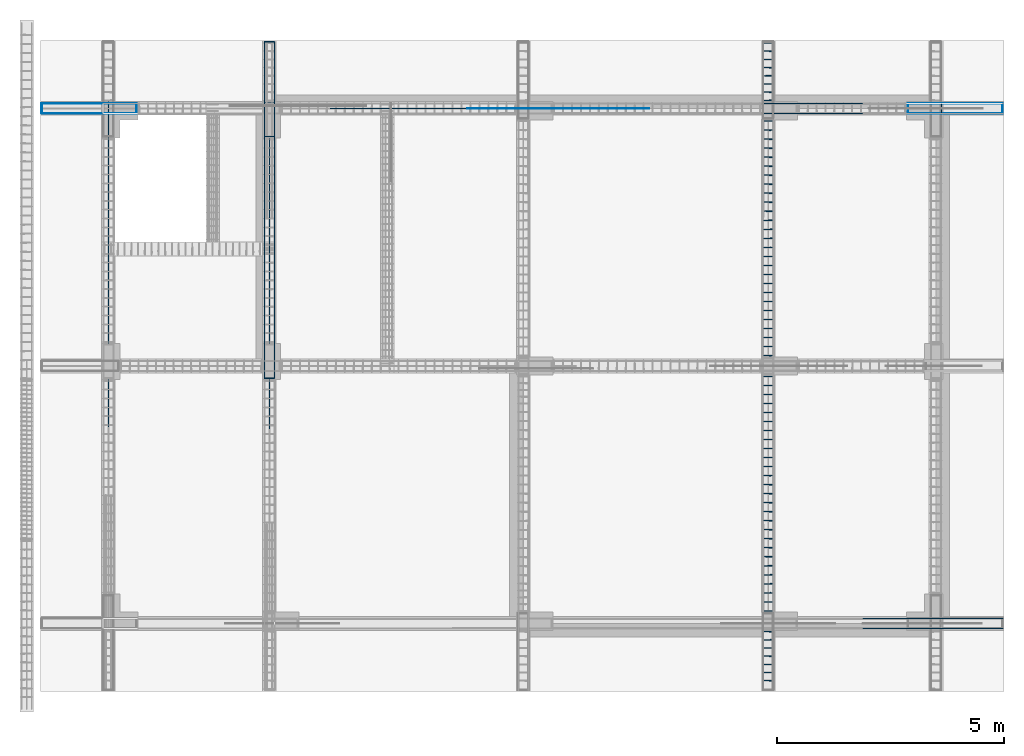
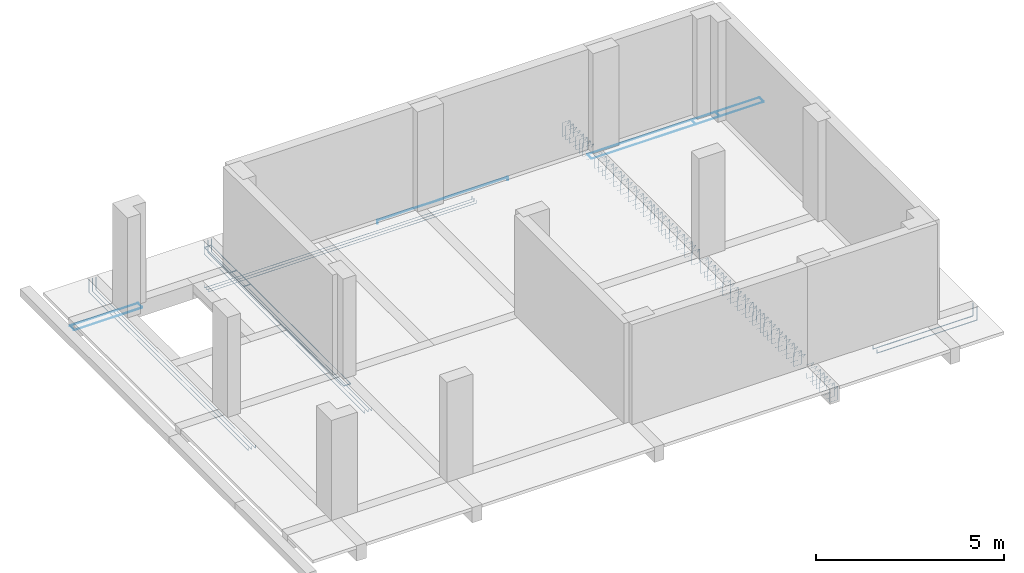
# One storey, part 3 of 3: 10 reinforcing bars.
"""IFC4 building model written with IfcOpenShell, lengths in metres."""

from ifc_helpers import new_model, entity, si_unit, frame, origin_with_axes, place, context, project, spatial, source, transform, mapped, element, save


model = new_model("IFC4")

# Units and contexts
model_context = context("Model", 3, precision=1e-05, world=origin_with_axes())
ifc_project = project(units=[si_unit("LENGTHUNIT", "METRE"), si_unit("AREAUNIT", "SQUARE_METRE"), si_unit("VOLUMEUNIT", "CUBIC_METRE"), si_unit("MASSUNIT", "GRAM", prefix="KILO"), si_unit("TIMEUNIT", "SECOND"), si_unit("PLANEANGLEUNIT", "RADIAN"), si_unit("SOLIDANGLEUNIT", "STERADIAN"), si_unit("THERMODYNAMICTEMPERATUREUNIT", "DEGREE_CELSIUS")], contexts=[model_context])

# Site, building, storey
placement_1 = place(None, origin_with_axes())
site = spatial("IfcSite", under=ifc_project, at=placement_1, Name="Italia", CompositionType="ELEMENT")
building = spatial("IfcBuilding", under=site, at=placement_1, Name="Palazzina", CompositionType="ELEMENT")
storey_placement = place(None, frame((0.0, 0.0, 3.75), z_axis=(0.0, 0.0, 1.0), x_axis=(1.0, 0.0, 0.0)))
storey = spatial("IfcBuildingStorey", under=building, at=storey_placement, Name="Storey 1", CompositionType="ELEMENT", Elevation=3.75)

# Reinforcing bars
shared_shape_1 = source(origin_with_axes(), model_context, "Body", "AdvancedSweptSolid", [
    entity("IfcSweptDiskSolid", entity("IfcIndexedPolyCurve", entity("IfcCartesianPointList3D", [[16.7984, 0.041, 3.39], [16.7984, 0.041, 3.3], [16.7991, 0.041, 3.29617], [16.8013, 0.041, 3.29293], [16.8045, 0.041, 3.29076], [16.8084, 0.041, 3.29], [17.75, 0.041, 3.29], [19.86, 0.041, 3.29], [19.8638, 0.041, 3.29076], [19.8671, 0.041, 3.29293], [19.8692, 0.041, 3.29617], [19.87, 0.041, 3.3], [19.87, 0.041, 3.71]]), [entity("IfcLineIndex", [1, 2]), entity("IfcLineIndex", [2, 3]), entity("IfcLineIndex", [3, 4]), entity("IfcLineIndex", [4, 5]), entity("IfcLineIndex", [5, 6]), entity("IfcLineIndex", [6, 7]), entity("IfcLineIndex", [7, 8]), entity("IfcLineIndex", [8, 9]), entity("IfcLineIndex", [9, 10]), entity("IfcLineIndex", [10, 11]), entity("IfcLineIndex", [11, 12]), entity("IfcLineIndex", [12, 13])], False), 0.008),
])
placement_2 = place(placement_1, origin_with_axes())
reinforcing_bar_1_placement = place(placement_2, origin_with_axes())
element("IfcReinforcingBar", 1, at=reinforcing_bar_1_placement, inside=storey, BarLength=3.58285, CrossSectionArea=0.00020106, NominalDiameter=0.016, context=model_context, shape_type="MappedRepresentation", body=[
    mapped(shared_shape_1, transform((0.0, 0.218, 0.0), x_axis=(1.0, 0.0, 0.0), y_axis=(0.0, 1.0, 0.0), z_axis=(0.0, 0.0, 1.0), scale=1.0)),
    mapped(shared_shape_1, transform((0.0, 0.0, 0.0), x_axis=(1.0, 0.0, 0.0), y_axis=(0.0, 1.0, 0.0), z_axis=(0.0, 0.0, 1.0), scale=1.0)),
])
shared_shape_2 = source(origin_with_axes(), model_context, "Body", "AdvancedSweptSolid", [
    entity("IfcSweptDiskSolid", entity("IfcIndexedPolyCurve", entity("IfcCartesianPointList3D", [[2.796, 11.402, 3.39], [2.796, 11.402, 3.3], [2.79676, 11.402, 3.29617], [2.79892, 11.402, 3.29293], [2.80217, 11.402, 3.29076], [2.806, 11.402, 3.29], [3.87908, 11.402, 3.29], [9.95, 11.402, 3.29], [11.0231, 11.402, 3.29], [11.0269, 11.402, 3.29076], [11.0302, 11.402, 3.29293], [11.0323, 11.402, 3.29617], [11.0331, 11.402, 3.3], [11.0331, 11.402, 3.39]]), [entity("IfcLineIndex", [1, 2]), entity("IfcLineIndex", [2, 3]), entity("IfcLineIndex", [3, 4]), entity("IfcLineIndex", [4, 5]), entity("IfcLineIndex", [5, 6]), entity("IfcLineIndex", [6, 7]), entity("IfcLineIndex", [7, 8]), entity("IfcLineIndex", [8, 9]), entity("IfcLineIndex", [9, 10]), entity("IfcLineIndex", [10, 11]), entity("IfcLineIndex", [11, 12]), entity("IfcLineIndex", [12, 13]), entity("IfcLineIndex", [13, 14])], False), 0.009),
])
reinforcing_bar_2_placement = place(placement_2, origin_with_axes())
element("IfcReinforcingBar", 2, at=reinforcing_bar_2_placement, inside=storey, BarLength=8.42831, CrossSectionArea=0.00025447, NominalDiameter=0.018, context=model_context, shape_type="MappedRepresentation", body=[
    mapped(shared_shape_2, transform((0.0, 0.108, 0.0), x_axis=(1.0, 0.0, 0.0), y_axis=(0.0, 1.0, 0.0), z_axis=(0.0, 0.0, 1.0), scale=1.0)),
    mapped(shared_shape_2, transform((0.0, 0.216001, 0.0), x_axis=(1.0, 0.0, 0.0), y_axis=(0.0, 1.0, 0.0), z_axis=(0.0, 0.0, 1.0), scale=1.0)),
    mapped(shared_shape_2, transform((0.0, 0.0, 0.0), x_axis=(1.0, 0.0, 0.0), y_axis=(0.0, 1.0, 0.0), z_axis=(0.0, 0.0, 1.0), scale=1.0)),
])
shared_shape_3 = source(origin_with_axes(), model_context, "Body", "AdvancedSweptSolid", [
    entity("IfcSweptDiskSolid", entity("IfcIndexedPolyCurve", entity("IfcCartesianPointList3D", [[17.78, 11.401, 3.506], [17.78, 11.611, 3.506], [17.7808, 11.6148, 3.506], [17.7829, 11.6181, 3.506], [17.7862, 11.6202, 3.506], [17.79, 11.621, 3.506], [19.86, 11.621, 3.506], [19.8638, 11.6202, 3.506], [19.8671, 11.6181, 3.506], [19.8692, 11.6148, 3.506], [19.87, 11.611, 3.506], [19.87, 11.401, 3.506]]), [entity("IfcLineIndex", [1, 2]), entity("IfcLineIndex", [2, 3]), entity("IfcLineIndex", [3, 4]), entity("IfcLineIndex", [4, 5]), entity("IfcLineIndex", [5, 6]), entity("IfcLineIndex", [6, 7]), entity("IfcLineIndex", [7, 8]), entity("IfcLineIndex", [8, 9]), entity("IfcLineIndex", [9, 10]), entity("IfcLineIndex", [10, 11]), entity("IfcLineIndex", [11, 12])], False), 0.006),
])
reinforcing_bar_3_placement = place(placement_2, origin_with_axes())
element("IfcReinforcingBar", 3, at=reinforcing_bar_3_placement, inside=storey, BarLength=2.52121, CrossSectionArea=0.0001131, NominalDiameter=0.012, context=model_context, shape_type="MappedRepresentation", body=[
    mapped(shared_shape_3, transform((0.0, 0.0, 0.0), x_axis=(1.0, 0.0, 0.0), y_axis=(0.0, 1.0, 0.0), z_axis=(0.0, 0.0, 1.0), scale=1.0)),
    mapped(shared_shape_3, transform((-19.1, 23.02, 7.0), x_axis=(1.0, 0.0, 0.0), y_axis=(0.0, -1.0, 0.0), z_axis=(0.0, 0.0, -1.0), scale=1.0)),
    mapped(shared_shape_3, transform((-19.1, 0.0, 0.0), x_axis=(1.0, 0.0, 0.0), y_axis=(0.0, 1.0, 0.0), z_axis=(0.0, 0.0, 1.0), scale=1.0)),
    mapped(shared_shape_3, transform((0.0, 23.02, 7.0), x_axis=(1.0, 0.0, 0.0), y_axis=(0.0, -1.0, 0.0), z_axis=(0.0, 0.0, -1.0), scale=1.0)),
])
shared_shape_4 = source(origin_with_axes(), model_context, "Body", "AdvancedSweptSolid", [
    entity("IfcSweptDiskSolid", entity("IfcIndexedPolyCurve", entity("IfcCartesianPointList3D", [[14.58, 11.401, 3.506], [14.58, 11.611, 3.506], [14.5808, 11.6148, 3.506], [14.5829, 11.6181, 3.506], [14.5862, 11.6202, 3.506], [14.59, 11.621, 3.506], [18.51, 11.621, 3.506], [18.5138, 11.6202, 3.506], [18.5171, 11.6181, 3.506], [18.5192, 11.6148, 3.506], [18.52, 11.611, 3.506], [18.52, 11.401, 3.506]]), [entity("IfcLineIndex", [1, 2]), entity("IfcLineIndex", [2, 3]), entity("IfcLineIndex", [3, 4]), entity("IfcLineIndex", [4, 5]), entity("IfcLineIndex", [5, 6]), entity("IfcLineIndex", [6, 7]), entity("IfcLineIndex", [7, 8]), entity("IfcLineIndex", [8, 9]), entity("IfcLineIndex", [9, 10]), entity("IfcLineIndex", [10, 11]), entity("IfcLineIndex", [11, 12])], False), 0.006),
])
reinforcing_bar_4_placement = place(placement_2, origin_with_axes())
element("IfcReinforcingBar", 4, at=reinforcing_bar_4_placement, inside=storey, BarLength=4.37121, CrossSectionArea=0.0001131, NominalDiameter=0.012, context=model_context, shape_type="MappedRepresentation", body=[
    mapped(shared_shape_4, transform((0.0, 23.02, 7.0), x_axis=(1.0, 0.0, 0.0), y_axis=(0.0, -1.0, 0.0), z_axis=(0.0, 0.0, -1.0), scale=1.0)),
    mapped(shared_shape_4, transform((0.0, 0.0, 0.0), x_axis=(1.0, 0.0, 0.0), y_axis=(0.0, 1.0, 0.0), z_axis=(0.0, 0.0, 1.0), scale=1.0)),
])
shared_shape_5 = source(origin_with_axes(), model_context, "Body", "AdvancedSweptSolid", [
    entity("IfcSweptDiskSolid", entity("IfcIndexedPolyCurve", entity("IfcCartesianPointList3D", [[8.06691, 11.51, 3.61], [8.06691, 11.51, 3.7], [8.06767, 11.51, 3.70383], [8.06984, 11.51, 3.70707], [8.07308, 11.51, 3.70924], [8.07691, 11.51, 3.71], [9.15, 11.51, 3.71], [10.9838, 11.51, 3.71], [12.0569, 11.51, 3.71], [12.0607, 11.51, 3.70924], [12.064, 11.51, 3.70707], [12.0661, 11.51, 3.70383], [12.0669, 11.51, 3.7], [12.0669, 11.51, 3.61]]), [entity("IfcLineIndex", [1, 2]), entity("IfcLineIndex", [2, 3]), entity("IfcLineIndex", [3, 4]), entity("IfcLineIndex", [4, 5]), entity("IfcLineIndex", [5, 6]), entity("IfcLineIndex", [6, 7]), entity("IfcLineIndex", [7, 8]), entity("IfcLineIndex", [8, 9]), entity("IfcLineIndex", [9, 10]), entity("IfcLineIndex", [10, 11]), entity("IfcLineIndex", [11, 12]), entity("IfcLineIndex", [12, 13]), entity("IfcLineIndex", [13, 14])], False), 0.009),
])
reinforcing_bar_5_placement = place(placement_2, origin_with_axes())
element("IfcReinforcingBar", 5, at=reinforcing_bar_5_placement, inside=storey, BarLength=4.19122, CrossSectionArea=0.00025447, NominalDiameter=0.018, context=model_context, shape_type="MappedRepresentation", body=[
    mapped(shared_shape_5, transform((0.0, 0.0, 0.0), x_axis=(1.0, 0.0, 0.0), y_axis=(0.0, 1.0, 0.0), z_axis=(0.0, 0.0, 1.0), scale=1.0)),
])
shared_shape_6 = source(origin_with_axes(), model_context, "Body", "AdvancedSweptSolid", [
    entity("IfcSweptDiskSolid", entity("IfcIndexedPolyCurve", entity("IfcCartesianPointList3D", [[0.258, 4.48925, 3.39], [0.258, 4.48925, 3.3], [0.258, 4.49001, 3.29617], [0.258, 4.49217, 3.29293], [0.258, 4.49542, 3.29076], [0.258, 4.49925, 3.29], [0.258, 5.57233, 3.29], [0.258, 12.97, 3.29], [0.258, 12.9738, 3.29076], [0.258, 12.9771, 3.29293], [0.258, 12.9792, 3.29617], [0.258, 12.98, 3.3], [0.258, 12.98, 3.71]]), [entity("IfcLineIndex", [1, 2]), entity("IfcLineIndex", [2, 3]), entity("IfcLineIndex", [3, 4]), entity("IfcLineIndex", [4, 5]), entity("IfcLineIndex", [5, 6]), entity("IfcLineIndex", [6, 7]), entity("IfcLineIndex", [7, 8]), entity("IfcLineIndex", [8, 9]), entity("IfcLineIndex", [9, 10]), entity("IfcLineIndex", [10, 11]), entity("IfcLineIndex", [11, 12]), entity("IfcLineIndex", [12, 13])], False), 0.009),
])
reinforcing_bar_6_placement = place(placement_2, origin_with_axes())
element("IfcReinforcingBar", 6, at=reinforcing_bar_6_placement, inside=storey, BarLength=9.00197, CrossSectionArea=0.00025447, NominalDiameter=0.018, context=model_context, shape_type="MappedRepresentation", body=[
    mapped(shared_shape_6, transform((-0.108, 0.0, 0.0), x_axis=(1.0, 0.0, 0.0), y_axis=(0.0, 1.0, 0.0), z_axis=(0.0, 0.0, 1.0), scale=1.0)),
    mapped(shared_shape_6, transform((-0.216, 0.0, 0.0), x_axis=(1.0, 0.0, 0.0), y_axis=(0.0, 1.0, 0.0), z_axis=(0.0, 0.0, 1.0), scale=1.0)),
    mapped(shared_shape_6, transform((0.0, 0.0, 0.0), x_axis=(1.0, 0.0, 0.0), y_axis=(0.0, 1.0, 0.0), z_axis=(0.0, 0.0, 1.0), scale=1.0)),
])
shared_shape_7 = source(origin_with_axes(), model_context, "Body", "AdvancedSweptSolid", [
    entity("IfcSweptDiskSolid", entity("IfcIndexedPolyCurve", entity("IfcCartesianPointList3D", [[3.808, 4.44691, 3.39], [3.808, 4.44691, 3.3], [3.808, 4.44767, 3.29617], [3.808, 4.44984, 3.29293], [3.808, 4.45309, 3.29076], [3.808, 4.45691, 3.29], [3.808, 5.53, 3.29], [3.808, 12.97, 3.29], [3.808, 12.9738, 3.29076], [3.808, 12.9771, 3.29293], [3.808, 12.9792, 3.29617], [3.808, 12.98, 3.3], [3.808, 12.98, 3.71]]), [entity("IfcLineIndex", [1, 2]), entity("IfcLineIndex", [2, 3]), entity("IfcLineIndex", [3, 4]), entity("IfcLineIndex", [4, 5]), entity("IfcLineIndex", [5, 6]), entity("IfcLineIndex", [6, 7]), entity("IfcLineIndex", [7, 8]), entity("IfcLineIndex", [8, 9]), entity("IfcLineIndex", [9, 10]), entity("IfcLineIndex", [10, 11]), entity("IfcLineIndex", [11, 12]), entity("IfcLineIndex", [12, 13])], False), 0.009),
])
reinforcing_bar_7_placement = place(placement_2, origin_with_axes())
element("IfcReinforcingBar", 7, at=reinforcing_bar_7_placement, inside=storey, BarLength=9.0443, CrossSectionArea=0.00025447, NominalDiameter=0.018, context=model_context, shape_type="MappedRepresentation", body=[
    mapped(shared_shape_7, transform((-0.108, 0.0, 0.0), x_axis=(1.0, 0.0, 0.0), y_axis=(0.0, 1.0, 0.0), z_axis=(0.0, 0.0, 1.0), scale=1.0)),
    mapped(shared_shape_7, transform((-0.216, 0.0, 0.0), x_axis=(1.0, 0.0, 0.0), y_axis=(0.0, 1.0, 0.0), z_axis=(0.0, 0.0, 1.0), scale=1.0)),
    mapped(shared_shape_7, transform((0.0, 0.0, 0.0), x_axis=(1.0, 0.0, 0.0), y_axis=(0.0, 1.0, 0.0), z_axis=(0.0, 0.0, 1.0), scale=1.0)),
])
shared_shape_8 = source(origin_with_axes(), model_context, "Body", "AdvancedSweptSolid", [
    entity("IfcSweptDiskSolid", entity("IfcIndexedPolyCurve", entity("IfcCartesianPointList3D", [[3.809, 10.89, 3.506], [3.599, 10.89, 3.506], [3.59517, 10.8908, 3.506], [3.59193, 10.8929, 3.506], [3.58976, 10.8962, 3.506], [3.589, 10.9, 3.506], [3.589, 12.97, 3.506], [3.58976, 12.9738, 3.506], [3.59193, 12.9771, 3.506], [3.59517, 12.9792, 3.506], [3.599, 12.98, 3.506], [3.809, 12.98, 3.506]]), [entity("IfcLineIndex", [1, 2]), entity("IfcLineIndex", [2, 3]), entity("IfcLineIndex", [3, 4]), entity("IfcLineIndex", [4, 5]), entity("IfcLineIndex", [5, 6]), entity("IfcLineIndex", [6, 7]), entity("IfcLineIndex", [7, 8]), entity("IfcLineIndex", [8, 9]), entity("IfcLineIndex", [9, 10]), entity("IfcLineIndex", [10, 11]), entity("IfcLineIndex", [11, 12])], False), 0.006),
])
reinforcing_bar_8_placement = place(placement_2, origin_with_axes())
element("IfcReinforcingBar", 8, at=reinforcing_bar_8_placement, inside=storey, BarLength=2.52122, CrossSectionArea=0.0001131, NominalDiameter=0.012, context=model_context, shape_type="MappedRepresentation", body=[
    mapped(shared_shape_8, transform((7.4, 0.0, 7.0), x_axis=(-1.0, 0.0, 0.0), y_axis=(0.0, 1.0, 0.0), z_axis=(0.0, 0.0, -1.0), scale=1.0)),
    mapped(shared_shape_8, transform((0.0, 0.0, 0.0), x_axis=(1.0, 0.0, 0.0), y_axis=(0.0, 1.0, 0.0), z_axis=(0.0, 0.0, 1.0), scale=1.0)),
])
shared_shape_9 = source(origin_with_axes(), model_context, "Body", "AdvancedSweptSolid", [
    entity("IfcSweptDiskSolid", entity("IfcIndexedPolyCurve", entity("IfcCartesianPointList3D", [[3.809, 5.56, 3.506], [3.599, 5.56, 3.506], [3.59517, 5.56076, 3.506], [3.59193, 5.56293, 3.506], [3.58976, 5.56617, 3.506], [3.589, 5.57, 3.506], [3.589, 11.62, 3.506], [3.58976, 11.6238, 3.506], [3.59193, 11.6271, 3.506], [3.59517, 11.6292, 3.506], [3.599, 11.63, 3.506], [3.809, 11.63, 3.506]]), [entity("IfcLineIndex", [1, 2]), entity("IfcLineIndex", [2, 3]), entity("IfcLineIndex", [3, 4]), entity("IfcLineIndex", [4, 5]), entity("IfcLineIndex", [5, 6]), entity("IfcLineIndex", [6, 7]), entity("IfcLineIndex", [7, 8]), entity("IfcLineIndex", [8, 9]), entity("IfcLineIndex", [9, 10]), entity("IfcLineIndex", [10, 11]), entity("IfcLineIndex", [11, 12])], False), 0.006),
])
reinforcing_bar_9_placement = place(placement_2, origin_with_axes())
element("IfcReinforcingBar", 9, at=reinforcing_bar_9_placement, inside=storey, BarLength=6.50121, CrossSectionArea=0.0001131, NominalDiameter=0.012, context=model_context, shape_type="MappedRepresentation", body=[
    mapped(shared_shape_9, transform((7.4, 0.0, 7.0), x_axis=(-1.0, 0.0, 0.0), y_axis=(0.0, 1.0, 0.0), z_axis=(0.0, 0.0, -1.0), scale=1.0)),
    mapped(shared_shape_9, transform((0.0, 0.0, 0.0), x_axis=(1.0, 0.0, 0.0), y_axis=(0.0, 1.0, 0.0), z_axis=(0.0, 0.0, 1.0), scale=1.0)),
])
shared_shape_10 = source(origin_with_axes(), model_context, "Body", "AdvancedSweptSolid", [
    entity("IfcSweptDiskSolid", entity("IfcIndexedPolyCurve", entity("IfcCartesianPointList3D", [[14.7503, -1.287, 3.62929], [14.8181, -1.28756, 3.69707], [14.821, -1.2876, 3.70414], [14.821, -1.28764, 3.711], [14.8202, -1.28766, 3.71483], [14.8181, -1.28769, 3.71807], [14.8148, -1.28771, 3.72024], [14.811, -1.28773, 3.721], [14.589, -1.28902, 3.721], [14.5852, -1.28904, 3.72024], [14.5819, -1.28906, 3.71807], [14.5798, -1.28909, 3.71483], [14.579, -1.28911, 3.711], [14.579, -1.29155, 3.289], [14.5798, -1.29158, 3.28517], [14.5819, -1.2916, 3.28193], [14.5852, -1.29162, 3.27976], [14.589, -1.29165, 3.279], [14.811, -1.29293, 3.279], [14.8148, -1.29296, 3.27976], [14.8181, -1.29298, 3.28193], [14.8202, -1.293, 3.28517], [14.821, -1.29302, 3.289], [14.821, -1.29547, 3.711], [14.8202, -1.29549, 3.71483], [14.8181, -1.29552, 3.71807], [14.8148, -1.29554, 3.72024], [14.811, -1.29556, 3.721], [14.8041, -1.2956, 3.721], [14.7971, -1.29564, 3.71807], [14.7293, -1.2962, 3.65029]]), [entity("IfcLineIndex", [1, 2]), entity("IfcLineIndex", [2, 3]), entity("IfcLineIndex", [3, 4]), entity("IfcLineIndex", [4, 5]), entity("IfcLineIndex", [5, 6]), entity("IfcLineIndex", [6, 7]), entity("IfcLineIndex", [7, 8]), entity("IfcLineIndex", [8, 9]), entity("IfcLineIndex", [9, 10]), entity("IfcLineIndex", [10, 11]), entity("IfcLineIndex", [11, 12]), entity("IfcLineIndex", [12, 13]), entity("IfcLineIndex", [13, 14]), entity("IfcLineIndex", [14, 15]), entity("IfcLineIndex", [15, 16]), entity("IfcLineIndex", [16, 17]), entity("IfcLineIndex", [17, 18]), entity("IfcLineIndex", [18, 19]), entity("IfcLineIndex", [19, 20]), entity("IfcLineIndex", [20, 21]), entity("IfcLineIndex", [21, 22]), entity("IfcLineIndex", [22, 23]), entity("IfcLineIndex", [23, 24]), entity("IfcLineIndex", [24, 25]), entity("IfcLineIndex", [25, 26]), entity("IfcLineIndex", [26, 27]), entity("IfcLineIndex", [27, 28]), entity("IfcLineIndex", [28, 29]), entity("IfcLineIndex", [29, 30]), entity("IfcLineIndex", [30, 31])], False), 0.004),
])
reinforcing_bar_10_placement = place(placement_2, origin_with_axes())
element("IfcReinforcingBar", 10, at=reinforcing_bar_10_placement, inside=storey, BarLength=1.58681, CrossSectionArea=5.0265e-05, NominalDiameter=0.008, context=model_context, shape_type="MappedRepresentation", body=[
    mapped(shared_shape_10, transform((0.0, 4.306, 0.0), x_axis=(1.0, 0.0, 0.0), y_axis=(0.0, 1.0, 0.0), z_axis=(0.0, 0.0, 1.0), scale=1.0)),
    mapped(shared_shape_10, transform((0.0, 4.10708, 0.0), x_axis=(1.0, 0.0, 0.0), y_axis=(0.0, 1.0, 0.0), z_axis=(0.0, 0.0, 1.0), scale=1.0)),
    mapped(shared_shape_10, transform((0.0, 3.90815, 0.0), x_axis=(1.0, 0.0, 0.0), y_axis=(0.0, 1.0, 0.0), z_axis=(0.0, 0.0, 1.0), scale=1.0)),
    mapped(shared_shape_10, transform((0.0, 3.70923, 0.0), x_axis=(1.0, 0.0, 0.0), y_axis=(0.0, 1.0, 0.0), z_axis=(0.0, 0.0, 1.0), scale=1.0)),
    mapped(shared_shape_10, transform((0.0, 6.89208, 0.0), x_axis=(1.0, 0.0, 0.0), y_axis=(0.0, 1.0, 0.0), z_axis=(0.0, 0.0, 1.0), scale=1.0)),
    mapped(shared_shape_10, transform((0.0, 6.69316, 0.0), x_axis=(1.0, 0.0, 0.0), y_axis=(0.0, 1.0, 0.0), z_axis=(0.0, 0.0, 1.0), scale=1.0)),
    mapped(shared_shape_10, transform((0.0, 4.70385, 0.0), x_axis=(1.0, 0.0, 0.0), y_axis=(0.0, 1.0, 0.0), z_axis=(0.0, 0.0, 1.0), scale=1.0)),
    mapped(shared_shape_10, transform((0.0, 4.50492, 0.0), x_axis=(1.0, 0.0, 0.0), y_axis=(0.0, 1.0, 0.0), z_axis=(0.0, 0.0, 1.0), scale=1.0)),
    mapped(shared_shape_10, transform((0.0, 5.89746, 0.0), x_axis=(1.0, 0.0, 0.0), y_axis=(0.0, 1.0, 0.0), z_axis=(0.0, 0.0, 1.0), scale=1.0)),
    mapped(shared_shape_10, transform((0.0, 5.69854, 0.0), x_axis=(1.0, 0.0, 0.0), y_axis=(0.0, 1.0, 0.0), z_axis=(0.0, 0.0, 1.0), scale=1.0)),
    mapped(shared_shape_10, transform((0.0, 5.49962, 0.0), x_axis=(1.0, 0.0, 0.0), y_axis=(0.0, 1.0, 0.0), z_axis=(0.0, 0.0, 1.0), scale=1.0)),
    mapped(shared_shape_10, transform((0.0, 5.3007, 0.0), x_axis=(1.0, 0.0, 0.0), y_axis=(0.0, 1.0, 0.0), z_axis=(0.0, 0.0, 1.0), scale=1.0)),
    mapped(shared_shape_10, transform((0.0, 5.10169, 0.0), x_axis=(1.0, 0.0, 0.0), y_axis=(0.0, 1.0, 0.0), z_axis=(0.0, 0.0, 1.0), scale=1.0)),
    mapped(shared_shape_10, transform((0.0, 4.90277, 0.0), x_axis=(1.0, 0.0, 0.0), y_axis=(0.0, 1.0, 0.0), z_axis=(0.0, 0.0, 1.0), scale=1.0)),
    mapped(shared_shape_10, transform((0.0, 6.29531, 0.0), x_axis=(1.0, 0.0, 0.0), y_axis=(0.0, 1.0, 0.0), z_axis=(0.0, 0.0, 1.0), scale=1.0)),
    mapped(shared_shape_10, transform((0.0, 6.09639, 0.0), x_axis=(1.0, 0.0, 0.0), y_axis=(0.0, 1.0, 0.0), z_axis=(0.0, 0.0, 1.0), scale=1.0)),
    mapped(shared_shape_10, transform((0.0, 0.540877, 0.0), x_axis=(1.0, 0.0, 0.0), y_axis=(0.0, 1.0, 0.0), z_axis=(0.0, 0.0, 1.0), scale=1.0)),
    mapped(shared_shape_10, transform((0.0, 0.360591, 0.0), x_axis=(1.0, 0.0, 0.0), y_axis=(0.0, 1.0, 0.0), z_axis=(0.0, 0.0, 1.0), scale=1.0)),
    mapped(shared_shape_10, transform((0.0, 0.180286, 0.0), x_axis=(1.0, 0.0, 0.0), y_axis=(0.0, 1.0, 0.0), z_axis=(0.0, 0.0, 1.0), scale=1.0)),
    mapped(shared_shape_10, transform((0.0, 3.51031, 0.0), x_axis=(1.0, 0.0, 0.0), y_axis=(0.0, 1.0, 0.0), z_axis=(0.0, 0.0, 1.0), scale=1.0)),
    mapped(shared_shape_10, transform((0.0, 3.31138, 0.0), x_axis=(1.0, 0.0, 0.0), y_axis=(0.0, 1.0, 0.0), z_axis=(0.0, 0.0, 1.0), scale=1.0)),
    mapped(shared_shape_10, transform((0.0, 6.49423, 0.0), x_axis=(1.0, 0.0, 0.0), y_axis=(0.0, 1.0, 0.0), z_axis=(0.0, 0.0, 1.0), scale=1.0)),
    mapped(shared_shape_10, transform((0.0, 0.901448, 0.0), x_axis=(1.0, 0.0, 0.0), y_axis=(0.0, 1.0, 0.0), z_axis=(0.0, 0.0, 1.0), scale=1.0)),
    mapped(shared_shape_10, transform((0.0, 0.721163, 0.0), x_axis=(1.0, 0.0, 0.0), y_axis=(0.0, 1.0, 0.0), z_axis=(0.0, 0.0, 1.0), scale=1.0)),
    mapped(shared_shape_10, transform((0.0, 2.31677, 0.0), x_axis=(1.0, 0.0, 0.0), y_axis=(0.0, 1.0, 0.0), z_axis=(0.0, 0.0, 1.0), scale=1.0)),
    mapped(shared_shape_10, transform((0.0, 2.11787, 0.0), x_axis=(1.0, 0.0, 0.0), y_axis=(0.0, 1.0, 0.0), z_axis=(0.0, 0.0, 1.0), scale=1.0)),
    mapped(shared_shape_10, transform((0.0, 1.91894, 0.0), x_axis=(1.0, 0.0, 0.0), y_axis=(0.0, 1.0, 0.0), z_axis=(0.0, 0.0, 1.0), scale=1.0)),
    mapped(shared_shape_10, transform((0.0, 1.71994, 0.0), x_axis=(1.0, 0.0, 0.0), y_axis=(0.0, 1.0, 0.0), z_axis=(0.0, 0.0, 1.0), scale=1.0)),
    mapped(shared_shape_10, transform((0.0, 1.262, 0.0), x_axis=(1.0, 0.0, 0.0), y_axis=(0.0, 1.0, 0.0), z_axis=(0.0, 0.0, 1.0), scale=1.0)),
    mapped(shared_shape_10, transform((0.0, 1.08171, 0.0), x_axis=(1.0, 0.0, 0.0), y_axis=(0.0, 1.0, 0.0), z_axis=(0.0, 0.0, 1.0), scale=1.0)),
    mapped(shared_shape_10, transform((0.0, 2.71462, 0.0), x_axis=(1.0, 0.0, 0.0), y_axis=(0.0, 1.0, 0.0), z_axis=(0.0, 0.0, 1.0), scale=1.0)),
    mapped(shared_shape_10, transform((0.0, 2.51569, 0.0), x_axis=(1.0, 0.0, 0.0), y_axis=(0.0, 1.0, 0.0), z_axis=(0.0, 0.0, 1.0), scale=1.0)),
    mapped(shared_shape_10, transform((-0.000167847, 11.3269, 0.000140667), x_axis=(1.0, 0.000133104, 0.0), y_axis=(-0.000133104, 1.0, 0.000122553), z_axis=(0.0, -0.000122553, 1.0), scale=1.0)),
    mapped(shared_shape_10, transform((-0.000167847, 11.128, 0.000140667), x_axis=(1.0, 0.000133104, 0.0), y_axis=(-0.000133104, 1.0, 0.000122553), z_axis=(0.0, -0.000122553, 1.0), scale=1.0)),
    mapped(shared_shape_10, transform((0.0, 0.0, 0.0), x_axis=(1.0, 0.0, 0.0), y_axis=(0.0, 1.0, 0.0), z_axis=(0.0, 0.0, 1.0), scale=1.0)),
    mapped(shared_shape_10, transform((-0.000167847, 14.2405, 0.000140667), x_axis=(1.0, 0.000133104, 0.0), y_axis=(-0.000133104, 1.0, 0.000122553), z_axis=(0.0, -0.000122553, 1.0), scale=1.0)),
    mapped(shared_shape_10, transform((0.0, 3.11246, 0.0), x_axis=(1.0, 0.0, 0.0), y_axis=(0.0, 1.0, 0.0), z_axis=(0.0, 0.0, 1.0), scale=1.0)),
    mapped(shared_shape_10, transform((0.0, 2.91354, 0.0), x_axis=(1.0, 0.0, 0.0), y_axis=(0.0, 1.0, 0.0), z_axis=(0.0, 0.0, 1.0), scale=1.0)),
    mapped(shared_shape_10, transform((-0.000167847, 11.7248, 0.000140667), x_axis=(1.0, 0.000133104, 0.0), y_axis=(-0.000133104, 1.0, 0.000122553), z_axis=(0.0, -0.000122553, 1.0), scale=1.0)),
    mapped(shared_shape_10, transform((-0.000167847, 11.5259, 0.000140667), x_axis=(1.0, 0.000133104, 0.0), y_axis=(-0.000133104, 1.0, 0.000122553), z_axis=(0.0, -0.000122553, 1.0), scale=1.0)),
    mapped(shared_shape_10, transform((-0.000167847, 13.1588, 0.000140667), x_axis=(1.0, 0.000133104, 0.0), y_axis=(-0.000133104, 1.0, 0.000122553), z_axis=(0.0, -0.000122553, 1.0), scale=1.0)),
    mapped(shared_shape_10, transform((-0.000167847, 12.9785, 0.000140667), x_axis=(1.0, 0.000133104, 0.0), y_axis=(-0.000133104, 1.0, 0.000122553), z_axis=(0.0, -0.000122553, 1.0), scale=1.0)),
    mapped(shared_shape_10, transform((-0.000167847, 12.5205, 0.000140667), x_axis=(1.0, 0.000133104, 0.0), y_axis=(-0.000133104, 1.0, 0.000122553), z_axis=(0.0, -0.000122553, 1.0), scale=1.0)),
    mapped(shared_shape_10, transform((-0.000167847, 12.3216, 0.000140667), x_axis=(1.0, 0.000133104, 0.0), y_axis=(-0.000133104, 1.0, 0.000122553), z_axis=(0.0, -0.000122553, 1.0), scale=1.0)),
    mapped(shared_shape_10, transform((-0.000167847, 12.1226, 0.000140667), x_axis=(1.0, 0.000133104, 0.0), y_axis=(-0.000133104, 1.0, 0.000122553), z_axis=(0.0, -0.000122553, 1.0), scale=1.0)),
    mapped(shared_shape_10, transform((-0.000167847, 11.9237, 0.000140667), x_axis=(1.0, 0.000133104, 0.0), y_axis=(-0.000133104, 1.0, 0.000122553), z_axis=(0.0, -0.000122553, 1.0), scale=1.0)),
    mapped(shared_shape_10, transform((-0.000167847, 13.5193, 0.000140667), x_axis=(1.0, 0.000133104, 0.0), y_axis=(-0.000133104, 1.0, 0.000122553), z_axis=(0.0, -0.000122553, 1.0), scale=1.0)),
    mapped(shared_shape_10, transform((-0.000167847, 13.3391, 0.000140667), x_axis=(1.0, 0.000133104, 0.0), y_axis=(-0.000133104, 1.0, 0.000122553), z_axis=(0.0, -0.000122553, 1.0), scale=1.0)),
    mapped(shared_shape_10, transform((0.0, 7.74793, 0.0), x_axis=(1.0, 0.0, 0.0), y_axis=(0.0, 1.0, 0.0), z_axis=(0.0, 0.0, 1.0), scale=1.0)),
    mapped(shared_shape_10, transform((-0.000167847, 10.9291, 0.000140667), x_axis=(1.0, 0.000133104, 0.0), y_axis=(-0.000133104, 1.0, 0.000122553), z_axis=(0.0, -0.000122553, 1.0), scale=1.0)),
    mapped(shared_shape_10, transform((-0.000167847, 10.7302, 0.000140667), x_axis=(1.0, 0.000133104, 0.0), y_axis=(-0.000133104, 1.0, 0.000122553), z_axis=(0.0, -0.000122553, 1.0), scale=1.0)),
    mapped(shared_shape_10, transform((-0.000167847, 14.0602, 0.000140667), x_axis=(1.0, 0.000133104, 0.0), y_axis=(-0.000133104, 1.0, 0.000122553), z_axis=(0.0, -0.000122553, 1.0), scale=1.0)),
    mapped(shared_shape_10, transform((-0.000167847, 13.8799, 0.000140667), x_axis=(1.0, 0.000133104, 0.0), y_axis=(-0.000133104, 1.0, 0.000122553), z_axis=(0.0, -0.000122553, 1.0), scale=1.0)),
    mapped(shared_shape_10, transform((-0.000167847, 13.6996, 0.000140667), x_axis=(1.0, 0.000133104, 0.0), y_axis=(-0.000133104, 1.0, 0.000122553), z_axis=(0.0, -0.000122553, 1.0), scale=1.0)),
    mapped(shared_shape_10, transform((0.0, 8.14577, 0.0), x_axis=(1.0, 0.0, 0.0), y_axis=(0.0, 1.0, 0.0), z_axis=(0.0, 0.0, 1.0), scale=1.0)),
    mapped(shared_shape_10, transform((0.0, 7.94685, 0.0), x_axis=(1.0, 0.0, 0.0), y_axis=(0.0, 1.0, 0.0), z_axis=(0.0, 0.0, 1.0), scale=1.0)),
    mapped(shared_shape_10, transform((-0.000167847, 9.33771, 0.000140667), x_axis=(1.0, 0.000133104, 0.0), y_axis=(-0.000133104, 1.0, 0.000122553), z_axis=(0.0, -0.000122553, 1.0), scale=1.0)),
    mapped(shared_shape_10, transform((0.0, 9.14039, 0.0), x_axis=(1.0, 0.0, 0.0), y_axis=(0.0, 1.0, 0.0), z_axis=(0.0, 0.0, 1.0), scale=1.0)),
    mapped(shared_shape_10, transform((0.0, 8.94146, 0.0), x_axis=(1.0, 0.0, 0.0), y_axis=(0.0, 1.0, 0.0), z_axis=(0.0, 0.0, 1.0), scale=1.0)),
    mapped(shared_shape_10, transform((0.0, 8.74254, 0.0), x_axis=(1.0, 0.0, 0.0), y_axis=(0.0, 1.0, 0.0), z_axis=(0.0, 0.0, 1.0), scale=1.0)),
    mapped(shared_shape_10, transform((0.0, 8.54362, 0.0), x_axis=(1.0, 0.0, 0.0), y_axis=(0.0, 1.0, 0.0), z_axis=(0.0, 0.0, 1.0), scale=1.0)),
    mapped(shared_shape_10, transform((0.0, 8.3447, 0.0), x_axis=(1.0, 0.0, 0.0), y_axis=(0.0, 1.0, 0.0), z_axis=(0.0, 0.0, 1.0), scale=1.0)),
    mapped(shared_shape_10, transform((-0.000167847, 9.73556, 0.000140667), x_axis=(1.0, 0.000133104, 0.0), y_axis=(-0.000133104, 1.0, 0.000122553), z_axis=(0.0, -0.000122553, 1.0), scale=1.0)),
    mapped(shared_shape_10, transform((-0.000167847, 9.53663, 0.000140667), x_axis=(1.0, 0.000133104, 0.0), y_axis=(-0.000133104, 1.0, 0.000122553), z_axis=(0.0, -0.000122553, 1.0), scale=1.0)),
    mapped(shared_shape_10, transform((0.0, 7.549, 0.0), x_axis=(1.0, 0.0, 0.0), y_axis=(0.0, 1.0, 0.0), z_axis=(0.0, 0.0, 1.0), scale=1.0)),
    mapped(shared_shape_10, transform((0.0, 7.35008, 0.0), x_axis=(1.0, 0.0, 0.0), y_axis=(0.0, 1.0, 0.0), z_axis=(0.0, 0.0, 1.0), scale=1.0)),
    mapped(shared_shape_10, transform((-0.000167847, 10.5313, 0.000140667), x_axis=(1.0, 0.000133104, 0.0), y_axis=(-0.000133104, 1.0, 0.000122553), z_axis=(0.0, -0.000122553, 1.0), scale=1.0)),
    mapped(shared_shape_10, transform((-0.000167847, 10.3323, 0.000140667), x_axis=(1.0, 0.000133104, 0.0), y_axis=(-0.000133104, 1.0, 0.000122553), z_axis=(0.0, -0.000122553, 1.0), scale=1.0)),
    mapped(shared_shape_10, transform((-0.000167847, 10.1334, 0.000140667), x_axis=(1.0, 0.000133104, 0.0), y_axis=(-0.000133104, 1.0, 0.000122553), z_axis=(0.0, -0.000122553, 1.0), scale=1.0)),
    mapped(shared_shape_10, transform((-0.000167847, 9.93448, 0.000140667), x_axis=(1.0, 0.000133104, 0.0), y_axis=(-0.000133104, 1.0, 0.000122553), z_axis=(0.0, -0.000122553, 1.0), scale=1.0)),
])

save(model, "model.ifc")
